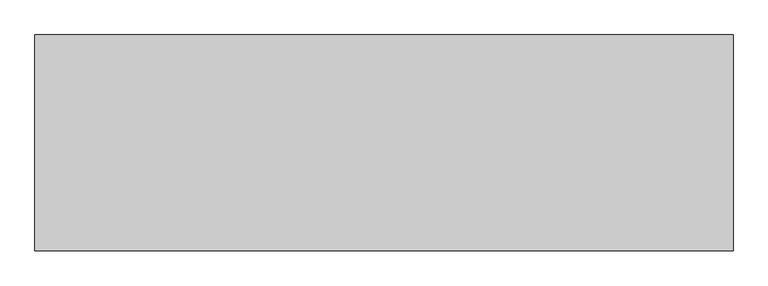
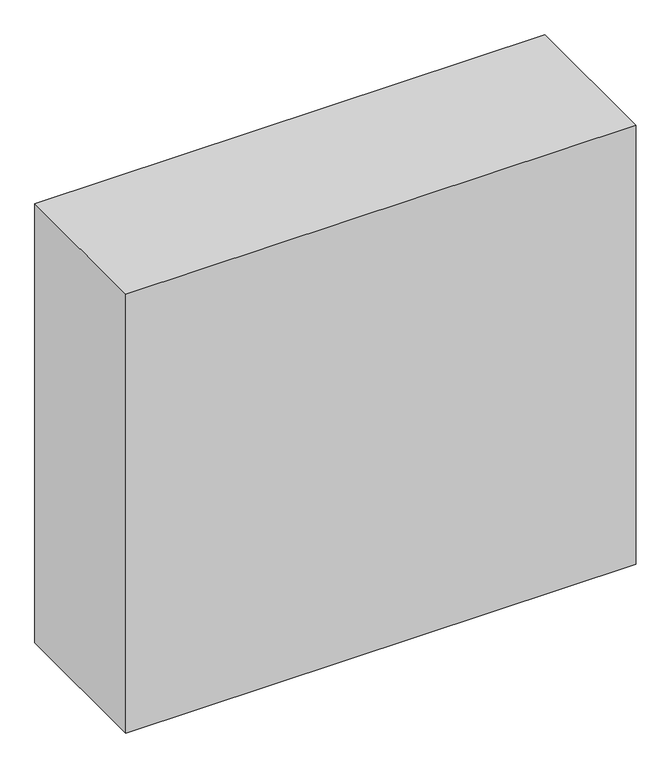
"""IFC4 building model written with IfcOpenShell, lengths in millimetres: unitary equipment geometry, nbl_Radiators : nbl_Radiators-700."""

from ifc_helpers import new_model, si_unit, point, frame, frame_2d, origin, origin_with_axes, place, context, project, spatial, polyline, circle_curve, trimmed, segment, composite_curve, outline, extrude, faceted_brep, source, transform, mapped, element, save


def unitary_equipment_6757032b(model_context):
    return source(origin(), model_context, "Body", "SolidModel", [
        extrude(outline(polyline([(521.8389423, -826.5161703), (521.8389423, -1166.5161703), (-578.1610577, -1166.5161703), (-578.1610577, -826.5161703), (521.8389423, -826.5161703)])), frame((0.0, 0.0, -200.0), z_axis=(0.0, 0.0, 1.0), x_axis=(1.0, 0.0, 0.0)), (0.0, 0.0, 1.0), 1000.0),
        extrude(outline(composite_curve([segment(trimmed(circle_curve(frame_2d((-916.5161703, 25.0)), 10.0), [point((-926.5161703, 25.0))], [point((-906.5161703, 25.0))], False, "CARTESIAN"), True, "CONTINUOUS"), segment(trimmed(circle_curve(frame_2d((-916.5161703, 25.0)), 10.0), [point((-906.5161703, 25.0))], [point((-926.5161703, 25.0))], False, "CARTESIAN"), True, "CONTINUOUS")], self_intersect=False)), frame((-380.1610577, 0.0, 0.0), z_axis=(1.0, 0.0, 0.0), x_axis=(0.0, 1.0, 0.0)), (0.0, 0.0, 1.0), 2.0),
        extrude(outline(composite_curve([segment(trimmed(circle_curve(frame_2d((-916.5161703, 570.0)), 10.0), [point((-926.5161703, 570.0))], [point((-906.5161703, 570.0))], False, "CARTESIAN"), True, "CONTINUOUS"), segment(trimmed(circle_curve(frame_2d((-916.5161703, 570.0)), 10.0), [point((-906.5161703, 570.0))], [point((-926.5161703, 570.0))], False, "CARTESIAN"), True, "CONTINUOUS")], self_intersect=False)), frame((-380.1610577, 0.0, 0.0), z_axis=(1.0, 0.0, 0.0), x_axis=(0.0, 1.0, 0.0)), (0.0, 0.0, 1.0), 2.0),
        extrude(outline(composite_curve([segment(trimmed(circle_curve(frame_2d((-916.5161703, 25.0)), 10.0), [point((-916.5161703, 35.0))], [point((-916.5161703, 15.0))], False, "CARTESIAN"), True, "CONTINUOUS"), segment(trimmed(circle_curve(frame_2d((-916.5161703, 25.0)), 10.0), [point((-916.5161703, 15.0))], [point((-916.5161703, 35.0))], False, "CARTESIAN"), True, "CONTINUOUS")], self_intersect=False)), frame((321.8389423, 0.0, 0.0), z_axis=(1.0, 0.0, 0.0), x_axis=(0.0, 1.0, 0.0)), (0.0, 0.0, 1.0), 2.0),
        extrude(outline(composite_curve([segment(trimmed(circle_curve(frame_2d((-916.5161703, 570.0)), 10.0), [point((-916.5161703, 580.0))], [point((-916.5161703, 560.0))], False, "CARTESIAN"), True, "CONTINUOUS"), segment(trimmed(circle_curve(frame_2d((-916.5161703, 570.0)), 10.0), [point((-916.5161703, 560.0))], [point((-916.5161703, 580.0))], False, "CARTESIAN"), True, "CONTINUOUS")], self_intersect=False)), frame((321.8389423, 0.0, 0.0), z_axis=(1.0, 0.0, 0.0), x_axis=(0.0, 1.0, 0.0)), (0.0, 0.0, 1.0), 2.0),
        faceted_brep([(301.8389423, -971.5161703, 580.0), (-358.1610577, -971.5161703, 580.0), (-358.1610577, -971.5161703, 10.0), (301.8389423, -971.5161703, 10.0), (309.8389423, -966.5161703, 588.0), (309.8389423, -966.5161703, 2.0), (-366.1610577, -966.5161703, 2.0), (-366.1610577, -966.5161703, 588.0)], [[[0, 1, 2, 3]], [[4, 5, 6, 7]], [[5, 4, 0, 3]], [[6, 5, 3, 2]], [[7, 6, 2, 1]], [[4, 7, 1, 0]]]),
        faceted_brep([(-368.1610577, -864.5161703, 0.0), (-368.1610577, -866.5161703, 0.0), (-378.1610577, -866.5161703, 0.0), (-378.1610577, -966.5161703, 0.0), (-368.1610577, -966.5161703, 0.0), (-368.1610577, -968.5161703, 0.0), (-380.1610577, -968.5161703, 0.0), (-380.1610577, -864.5161703, 0.0), (-380.1610577, -864.5161703, 602.0), (-368.1610577, -864.5161703, 602.0), (-380.1610577, -968.5161703, 602.0), (-368.1610577, -968.5161703, 602.0), (-368.1610577, -966.5161703, 600.0), (-368.1610577, -866.5161703, 600.0), (-378.1610577, -966.5161703, 600.0), (-378.1610577, -866.5161703, 600.0)], [[[0, 1, 2, 3, 4, 5, 6, 7]], [[0, 7, 8, 9]], [[8, 7, 6, 10]], [[10, 6, 5, 11]], [[11, 5, 4, 12, 13, 1, 0, 9]], [[4, 3, 14, 12]], [[3, 2, 15, 14]], [[2, 1, 13, 15]], [[13, 12, 14, 15]], [[9, 8, 10, 11]]]),
        faceted_brep([(323.8389423, -864.5161703, 0.0), (311.8389423, -864.5161703, 0.0), (311.8389423, -864.5161703, 602.0), (323.8389423, -864.5161703, 602.0), (323.8389423, -968.5161703, 602.0), (311.8389423, -968.5161703, 602.0), (311.8389423, -968.5161703, 0.0), (323.8389423, -968.5161703, 0.0), (311.8389423, -966.5161703, 600.0), (311.8389423, -866.5161703, 600.0), (321.8389423, -866.5161703, 600.0), (321.8389423, -966.5161703, 600.0), (311.8389423, -866.5161703, 0.0), (311.8389423, -966.5161703, 0.0), (321.8389423, -966.5161703, 0.0), (321.8389423, -866.5161703, 0.0)], [[[0, 1, 2, 3]], [[4, 5, 6, 7]], [[0, 3, 4, 7]], [[8, 9, 10, 11]], [[2, 1, 12, 9, 8, 13, 6, 5]], [[3, 2, 5, 4]], [[6, 13, 14, 15, 12, 1, 0, 7]], [[12, 15, 10, 9]], [[15, 14, 11, 10]], [[14, 13, 8, 11]]]),
        faceted_brep([(-368.1610577, -968.5161703, 602.0), (-368.1610577, -864.5161703, 602.0), (-368.1610577, -864.5161703, 590.0), (-368.1610577, -866.5161703, 590.0), (-368.1610577, -866.5161703, 600.0), (-368.1610577, -966.5161703, 600.0), (-368.1610577, -966.5161703, 590.0), (-368.1610577, -968.5161703, 590.0), (311.8389423, -968.5161703, 602.0), (311.8389423, -968.5161703, 590.0), (311.8389423, -966.5161703, 590.0), (311.8389423, -966.5161703, 600.0), (311.8389423, -866.5161703, 600.0), (311.8389423, -866.5161703, 590.0), (311.8389423, -864.5161703, 590.0), (311.8389423, -864.5161703, 602.0), (-358.1610577, -876.5161703, 602.0), (301.8389423, -876.5161703, 602.0), (301.8389423, -956.5161703, 602.0), (-358.1610577, -956.5161703, 602.0), (301.8389423, -876.5161703, 600.0), (-358.1610577, -876.5161703, 600.0), (-358.1610577, -956.5161703, 600.0), (301.8389423, -956.5161703, 600.0)], [[[0, 1, 2, 3, 4, 5, 6, 7]], [[8, 9, 10, 11, 12, 13, 14, 15]], [[1, 0, 8, 15], [16, 17, 18, 19]], [[2, 1, 15, 14]], [[3, 2, 14, 13]], [[4, 3, 13, 12]], [[5, 4, 12, 11], [20, 21, 22, 23]], [[6, 5, 11, 10]], [[7, 6, 10, 9]], [[0, 7, 9, 8]], [[16, 21, 20, 17]], [[18, 23, 22, 19]], [[17, 20, 23, 18]], [[21, 16, 19, 22]]]),
        extrude(outline(polyline([(-378.1610577, -866.5161703), (321.8389423, -866.5161703), (321.8389423, -876.5161703), (-378.1610577, -876.5161703), (-378.1610577, -866.5161703)])), origin_with_axes(), (0.0, 0.0, 1.0), 600.0),
        extrude(outline(polyline([(-378.1610577, -956.5161703), (321.8389423, -956.5161703), (321.8389423, -966.5161703), (-378.1610577, -966.5161703), (-378.1610577, -956.5161703)])), origin_with_axes(), (0.0, 0.0, 1.0), 600.0),
    ])


if __name__ == "__main__":
    model = new_model("IFC4")
    model_context = context("Model", 3, world=origin())
    ifc_project = project(units=[si_unit("LENGTHUNIT", "METRE", prefix="MILLI")], contexts=[model_context])
    site = spatial("IfcSite", under=ifc_project)
    building = spatial("IfcBuilding", under=site)
    placement = place(None, origin())
    unitary_equipment_shape = unitary_equipment_6757032b(model_context)
    element("IfcUnitaryEquipment", 1, ObjectType="nbl_Radiators : nbl_Radiators-700", at=placement, inside=building, context=model_context, shape_type="MappedRepresentation", body=[
        mapped(unitary_equipment_shape, transform((0.0, 0.0, 0.0), x_axis=(1.0, 0.0, 0.0), y_axis=(0.0, 1.0, 0.0), z_axis=(0.0, 0.0, 1.0))),
    ])
    save(model, "model.ifc")
